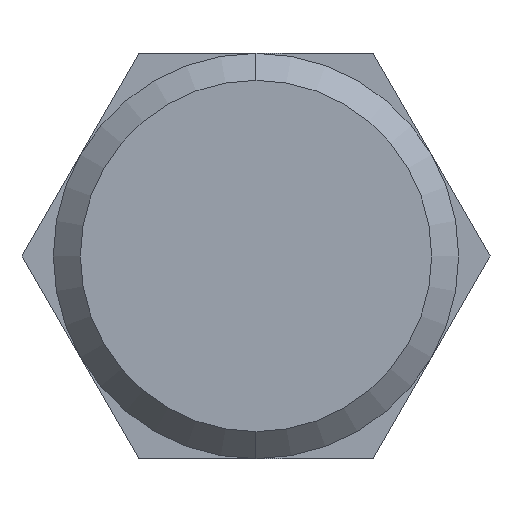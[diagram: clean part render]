
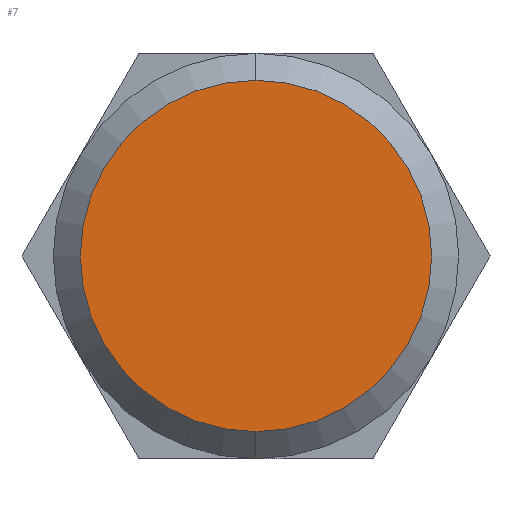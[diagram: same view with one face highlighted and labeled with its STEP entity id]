
A CAD part, left-side view. The second image highlights one B-rep face of the part: STEP entity #7.
In plain terms, the highlighted planar face has unit normal (-1, 0, 0).
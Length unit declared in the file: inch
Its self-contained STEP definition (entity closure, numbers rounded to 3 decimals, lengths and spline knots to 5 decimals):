
#7 = ADVANCED_FACE ( 'NONE', ( #1482 ), #268, .T. ) ;
#54 = AXIS2_PLACEMENT_3D ( 'NONE', #1329, #1327, #1449 ) ;
#140 = EDGE_CURVE ( 'NONE', #1004, #1022, #1742, .T. ) ;
#216 = AXIS2_PLACEMENT_3D ( 'NONE', #294, #295, #296 ) ;
#220 = AXIS2_PLACEMENT_3D ( 'NONE', #965, #972, #970 ) ;
#268 = PLANE ( 'NONE',  #216 ) ;
#294 = CARTESIAN_POINT ( 'NONE',  ( -4.34318, 0.37697, 0. ) ) ;
#295 = DIRECTION ( 'NONE',  ( -1., 0., 0. ) ) ;
#296 = DIRECTION ( 'NONE',  ( 0., 0., 1. ) ) ;
#402 = CIRCLE ( 'NONE', #220, 0.5417 ) ;
#617 = CARTESIAN_POINT ( 'NONE',  ( -4.34318, -0.16473, -0.5417 ) ) ;
#686 = CARTESIAN_POINT ( 'NONE',  ( -4.34318, -0.16473, 0.5417 ) ) ;
#965 = CARTESIAN_POINT ( 'NONE',  ( -4.34318, -0.16473, 0. ) ) ;
#970 = DIRECTION ( 'NONE',  ( 0., 0., -1. ) ) ;
#972 = DIRECTION ( 'NONE',  ( 1., 0., 0. ) ) ;
#1004 = VERTEX_POINT ( 'NONE', #686 ) ;
#1022 = VERTEX_POINT ( 'NONE', #617 ) ;
#1068 = EDGE_LOOP ( 'NONE', ( #1633, #1576 ) ) ;
#1327 = DIRECTION ( 'NONE',  ( 1., 0., 0. ) ) ;
#1329 = CARTESIAN_POINT ( 'NONE',  ( -4.34318, -0.16473, 0. ) ) ;
#1449 = DIRECTION ( 'NONE',  ( 0., 0., -1. ) ) ;
#1482 = FACE_OUTER_BOUND ( 'NONE', #1068, .T. ) ;
#1576 = ORIENTED_EDGE ( 'NONE', *, *, #140, .F. ) ;
#1633 = ORIENTED_EDGE ( 'NONE', *, *, #1783, .F. ) ;
#1742 = CIRCLE ( 'NONE', #54, 0.5417 ) ;
#1783 = EDGE_CURVE ( 'NONE', #1022, #1004, #402, .T. ) ;
